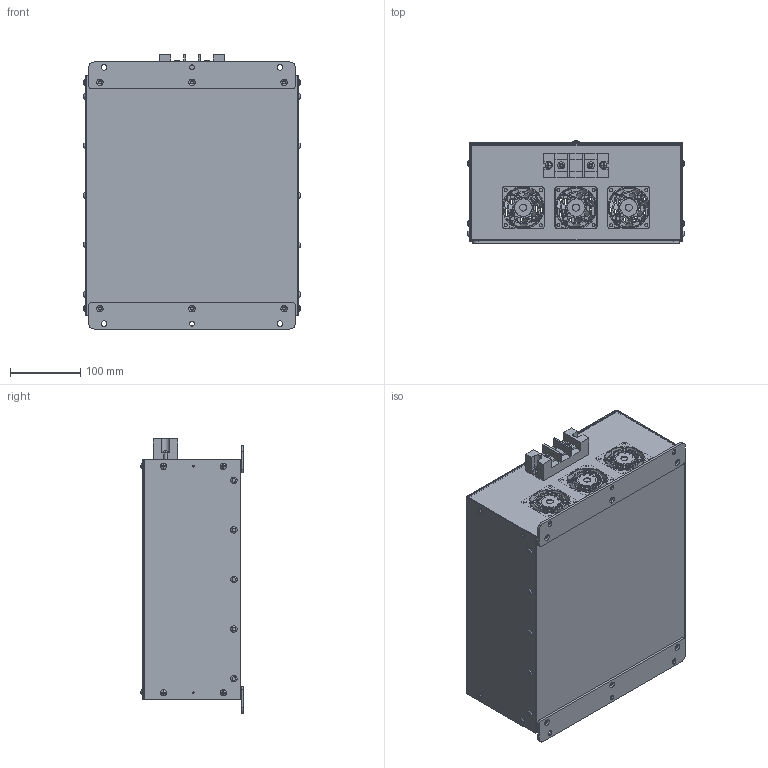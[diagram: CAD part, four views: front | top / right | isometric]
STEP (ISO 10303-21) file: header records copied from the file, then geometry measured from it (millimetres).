
FILE_DESCRIPTION(/* description */ ('','CAx-IF Rec.Pracs.---Representation and Presentation of Product Manufacturing Information (PMI)---4.0---2014-10-13'),/* implementation_level */ '2;1');
FILE_NAME(/* name */ 'H:\04_배터리_전기종\고부하용 배터리 케이스_3D\[NEW] X4 고객용\X4.stp',/* time_stamp */ '2021-12-10T16:24:36+09:00',/* author */ ('jjang'),/* organization */ (''),/* preprocessor_version */ 'ST-DEVELOPER v18.1',/* originating_system */ 'Autodesk Inventor 2021',/* authorisation */ '');
FILE_SCHEMA (('AP242_MANAGED_MODEL_BASED_3D_ENGINEERING_MIM_LF { 1 0 10303 442 1 1 4 }'));
Products named in the file (3): X4; BRACKET; CASE ASSEMBLY
Assembly tree (3 placements, depth 2):
  X4
    BRACKET  x2
    CASE ASSEMBLY
Bounding box: 309.24 x 145.97 x 390 mm (x, y, z)
Volume: 721602.7 mm3; surface area: 919777 mm2
Topology: 3 solids, 3 shells, 2412 faces, 6587 edges, 4335 vertices
Faces by surface type: plane 1194, cylinder 732, bspline 352, torus 86, cone 27, sphere 21
Full cylindrical faces by diameter (mm): 0.9 x6, 2 x4, 3.6 x6, 3.8 x18, 4 x8, 4.3 x12, 4.5 x16, 5 x8, 5.3 x20, 6.6 x2, 8.8 x10, 9.2 x2, 10 x8, 25.4 x3, 55.4 x3
Entity records: 96975 total; most frequent: CARTESIAN_POINT 35410, ORIENTED_EDGE 12896, DIRECTION 11840, EDGE_CURVE 6448, AXIS2_PLACEMENT_3D 4192, VERTEX_POINT 4190, LINE 3456, VECTOR 3456
